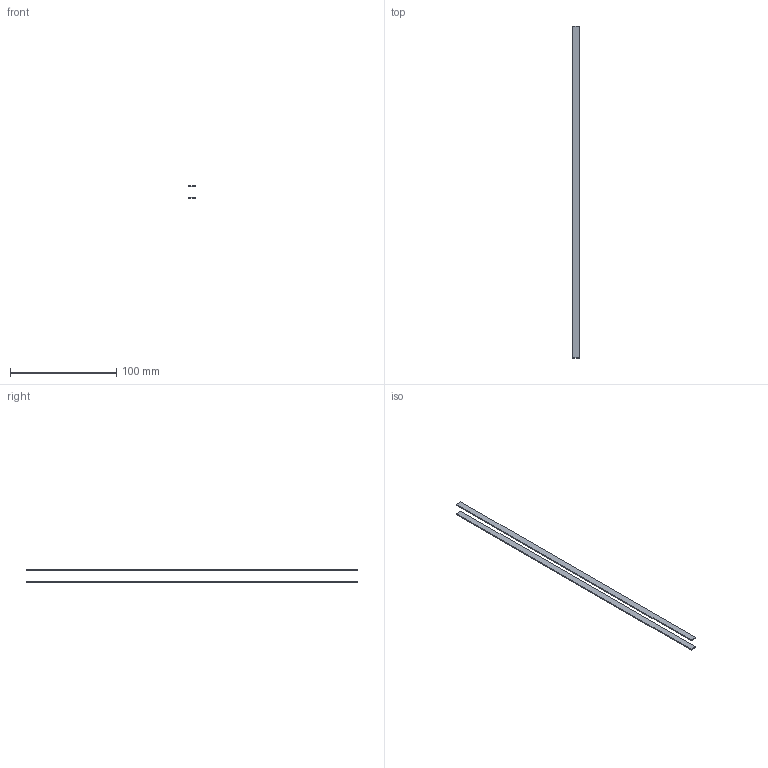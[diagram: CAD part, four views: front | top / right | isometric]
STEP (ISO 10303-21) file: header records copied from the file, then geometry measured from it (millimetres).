
FILE_DESCRIPTION(/* description */ (''),/* implementation_level */ '2;1');
FILE_NAME(/* name */ 'CORREA~1',/* time_stamp */ '2019-04-01T21:27:32-03:00',/* author */ (''),/* organization */ (''),/* preprocessor_version */ 'ST-DEVELOPER v16.5',/* originating_system */ '',/* authorisation */ '');
FILE_SCHEMA (('AUTOMOTIVE_DESIGN'));
Length unit declared in the file: millimetre
Products named in the file (1): Document
Bounding box: 6 x 313.06 x 11.78 mm (x, y, z)
Volume: 3756.7 mm3; surface area: 8789.5 mm2
Topology: 2 solids, 2 shells, 12 faces, 24 edges, 16 vertices
Faces by surface type: plane 12
Entity records: 290 total; most frequent: CARTESIAN_POINT 78, ORIENTED_EDGE 48, EDGE_CURVE 24, B_SPLINE_CURVE_WITH_KNOTS 24, VERTEX_POINT 16, DIRECTION 16, AXIS2_PLACEMENT_3D 14, ADVANCED_FACE 12
